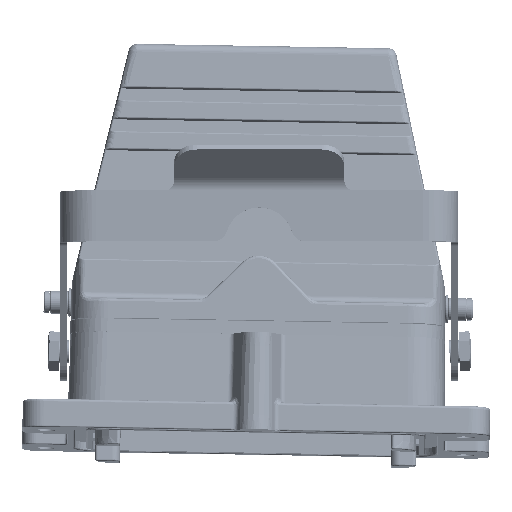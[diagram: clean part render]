
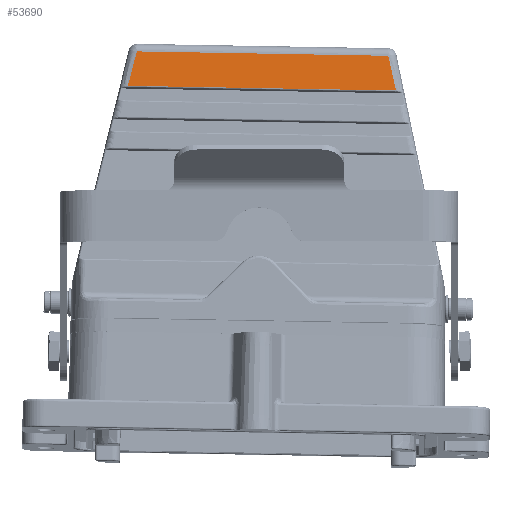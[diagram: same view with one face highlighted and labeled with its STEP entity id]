
A CAD part, top view. The second image highlights one B-rep face of the part: STEP entity #53690.
In plain terms, the highlighted planar face has unit normal (0.002, 0.106, 0.994) as drawn and (0, 0.017, 1) by its records, which use the part's own axes.
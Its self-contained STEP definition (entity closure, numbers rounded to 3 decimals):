
#996 = CARTESIAN_POINT ( 'NONE',  ( 44.394, 134.648, 38.463 ) ) ;
#6161 = CARTESIAN_POINT ( 'NONE',  ( 46.375, 126.471, 38.606 ) ) ;
#8295 = DIRECTION ( 'NONE',  ( 1., 0., 0. ) ) ;
#11028 = DIRECTION ( 'NONE',  ( -1., 0., 0. ) ) ;
#14762 = ORIENTED_EDGE ( 'NONE', *, *, #16307, .T. ) ;
#16307 = EDGE_CURVE ( 'NONE', #45893, #261640, #216330, .T. ) ;
#20151 = EDGE_CURVE ( 'NONE', #100446, #143604, #252736, .T. ) ;
#28805 = VECTOR ( 'NONE', #8295, 1000. ) ;
#30903 = CARTESIAN_POINT ( 'NONE',  ( -47.354, 122.387, 38.677 ) ) ;
#45141 = FACE_OUTER_BOUND ( 'NONE', #170741, .T. ) ;
#45893 = VERTEX_POINT ( 'NONE', #304820 ) ;
#47206 = EDGE_CURVE ( 'NONE', #210496, #261640, #199221, .T. ) ;
#48239 = CARTESIAN_POINT ( 'NONE',  ( 47.354, 122.387, 38.677 ) ) ;
#49786 = CARTESIAN_POINT ( 'NONE',  ( -44.391, 134.639, 38.463 ) ) ;
#53690 = ADVANCED_FACE ( 'NONE', ( #45141 ), #120923, .T. ) ;
#56761 = CARTESIAN_POINT ( 'NONE',  ( -46.374, 126.47, 38.606 ) ) ;
#57902 = CARTESIAN_POINT ( 'NONE',  ( 44.397, 134.632, 38.463 ) ) ;
#59922 = CARTESIAN_POINT ( 'NONE',  ( -45.388, 130.551, 38.535 ) ) ;
#71107 = EDGE_CURVE ( 'NONE', #100446, #45893, #255059, .T. ) ;
#77283 = DIRECTION ( 'NONE',  ( 1., 0., 0. ) ) ;
#78589 = CARTESIAN_POINT ( 'NONE',  ( -44.356, 134.654, 38.463 ) ) ;
#89360 = ORIENTED_EDGE ( 'NONE', *, *, #71107, .T. ) ;
#89687 = ORIENTED_EDGE ( 'NONE', *, *, #202944, .F. ) ;
#100446 = VERTEX_POINT ( 'NONE', #221756 ) ;
#103596 = ORIENTED_EDGE ( 'NONE', *, *, #20151, .F. ) ;
#120923 = PLANE ( 'NONE',  #129204 ) ;
#122439 = CARTESIAN_POINT ( 'NONE',  ( 44.397, 134.632, 38.463 ) ) ;
#123993 = CARTESIAN_POINT ( 'NONE',  ( -44.387, 134.644, 38.463 ) ) ;
#128314 = ORIENTED_EDGE ( 'NONE', *, *, #47206, .F. ) ;
#129204 = AXIS2_PLACEMENT_3D ( 'NONE', #245062, #270911, #77283 ) ;
#132534 = CARTESIAN_POINT ( 'NONE',  ( -44.394, 134.631, 38.463 ) ) ;
#143604 = VERTEX_POINT ( 'NONE', #283915 ) ;
#157880 = LINE ( 'NONE', #182069, #306293 ) ;
#166032 = CARTESIAN_POINT ( 'NONE',  ( 44.353, 134.652, 38.463 ) ) ;
#170741 = EDGE_LOOP ( 'NONE', ( #182251, #89687, #103596, #89360, #14762, #128314 ) ) ;
#173999 = CARTESIAN_POINT ( 'NONE',  ( -44.393, 134.635, 38.463 ) ) ;
#182069 = CARTESIAN_POINT ( 'NONE',  ( 44.353, 134.652, 38.463 ) ) ;
#182251 = ORIENTED_EDGE ( 'NONE', *, *, #215792, .T. ) ;
#184039 = CARTESIAN_POINT ( 'NONE',  ( 0., 122.387, 38.677 ) ) ;
#184484 = VERTEX_POINT ( 'NONE', #78589 ) ;
#198192 = CARTESIAN_POINT ( 'NONE',  ( -44.36, 134.654, 38.463 ) ) ;
#199221 = B_SPLINE_CURVE_WITH_KNOTS ( 'NONE', 3,
 ( #221968, #244527, #996, #220405 ),
 .UNSPECIFIED., .F., .F.,
 ( 4, 4 ),
 ( 0., 1. ),
 .UNSPECIFIED. ) ;
#202944 = EDGE_CURVE ( 'NONE', #143604, #184484, #217835, .T. ) ;
#210496 = VERTEX_POINT ( 'NONE', #166032 ) ;
#215792 = EDGE_CURVE ( 'NONE', #210496, #184484, #157880, .T. ) ;
#216330 = B_SPLINE_CURVE_WITH_KNOTS ( 'NONE', 3,
 ( #48239, #6161, #246596, #122439 ),
 .UNSPECIFIED., .F., .F.,
 ( 4, 4 ),
 ( 0., 1. ),
 .UNSPECIFIED. ) ;
#217835 = B_SPLINE_CURVE_WITH_KNOTS ( 'NONE', 3,
 ( #270763, #173999, #49786, #123993, #222357, #265980, #272374, #290242, #198192, #296587 ),
 .UNSPECIFIED., .F., .F.,
 ( 4, 2, 2, 2, 4 ),
 ( 0., 0.25, 0.375, 0.5, 1. ),
 .UNSPECIFIED. ) ;
#220405 = CARTESIAN_POINT ( 'NONE',  ( 44.397, 134.632, 38.463 ) ) ;
#221756 = CARTESIAN_POINT ( 'NONE',  ( -47.354, 122.387, 38.677 ) ) ;
#221968 = CARTESIAN_POINT ( 'NONE',  ( 44.353, 134.652, 38.463 ) ) ;
#222357 = CARTESIAN_POINT ( 'NONE',  ( -44.386, 134.645, 38.463 ) ) ;
#244527 = CARTESIAN_POINT ( 'NONE',  ( 44.372, 134.652, 38.463 ) ) ;
#245062 = CARTESIAN_POINT ( 'NONE',  ( 0., 128.52, 38.57 ) ) ;
#246596 = CARTESIAN_POINT ( 'NONE',  ( 45.39, 130.552, 38.535 ) ) ;
#252736 = B_SPLINE_CURVE_WITH_KNOTS ( 'NONE', 3,
 ( #30903, #56761, #59922, #132534 ),
 .UNSPECIFIED., .F., .F.,
 ( 4, 4 ),
 ( 0., 1. ),
 .UNSPECIFIED. ) ;
#255059 = LINE ( 'NONE', #184039, #28805 ) ;
#261640 = VERTEX_POINT ( 'NONE', #57902 ) ;
#265980 = CARTESIAN_POINT ( 'NONE',  ( -44.383, 134.647, 38.463 ) ) ;
#270763 = CARTESIAN_POINT ( 'NONE',  ( -44.394, 134.631, 38.463 ) ) ;
#270911 = DIRECTION ( 'NONE',  ( 0., 0.017, 1. ) ) ;
#272374 = CARTESIAN_POINT ( 'NONE',  ( -44.383, 134.648, 38.463 ) ) ;
#283915 = CARTESIAN_POINT ( 'NONE',  ( -44.394, 134.631, 38.463 ) ) ;
#290242 = CARTESIAN_POINT ( 'NONE',  ( -44.367, 134.653, 38.463 ) ) ;
#296587 = CARTESIAN_POINT ( 'NONE',  ( -44.356, 134.654, 38.463 ) ) ;
#304820 = CARTESIAN_POINT ( 'NONE',  ( 47.354, 122.387, 38.677 ) ) ;
#306293 = VECTOR ( 'NONE', #11028, 1000. ) ;
